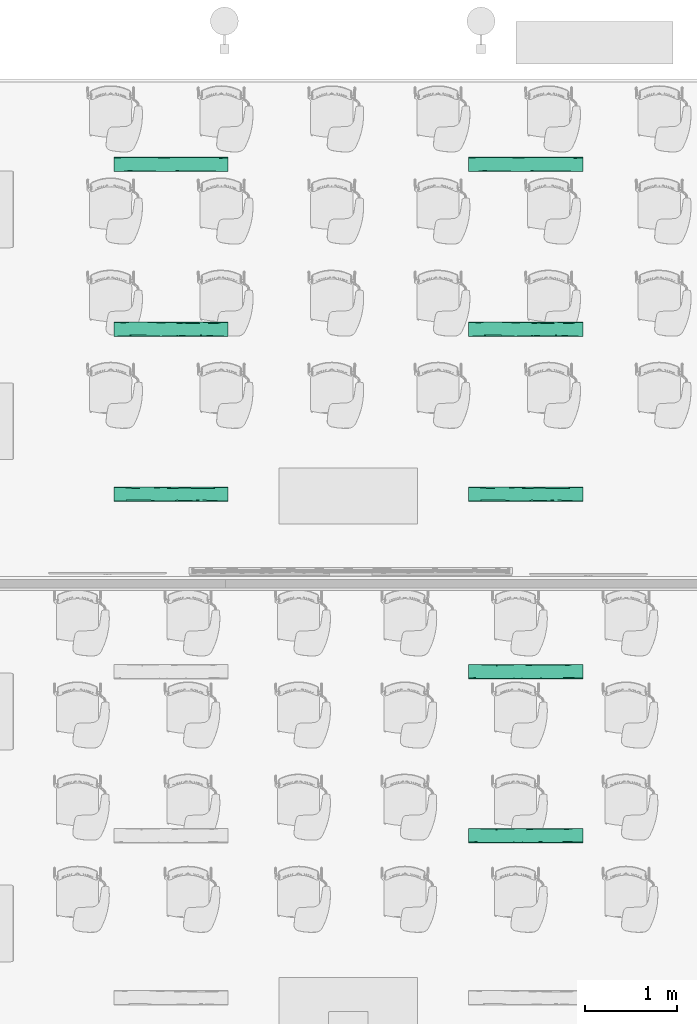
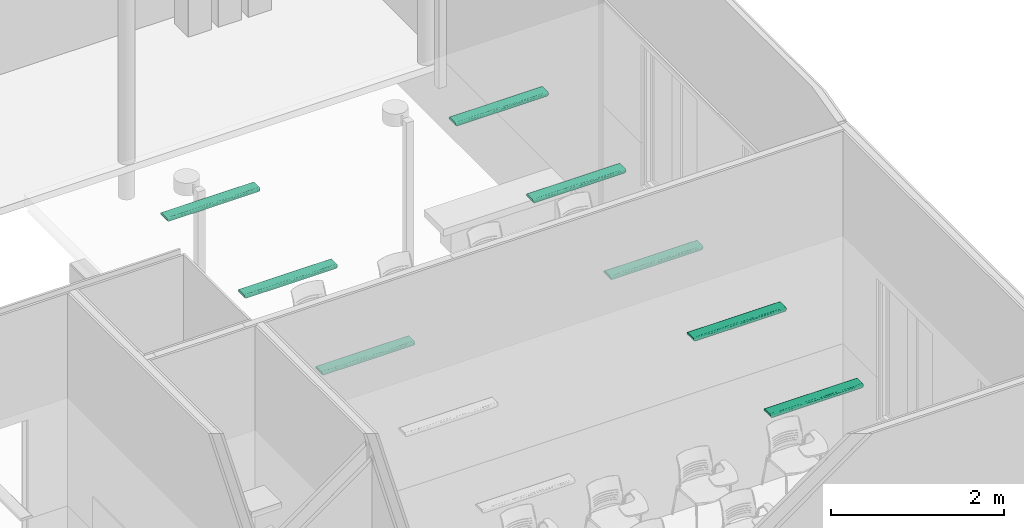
# One storey, part 56 of 155: 8 flow terminals.
"""IFC2X3 building model written with IfcOpenShell, lengths in metres."""

from ifc_helpers import new_model, entity, si_unit, converted_unit, derived_unit, direction, frame, origin, place, context, subcontext, project, spatial, faceted_brep, source, transform, mapped, material, material_list, type_object, type_shapes, element, save


model = new_model("IFC2X3")

# Units and contexts
model_context = context("Model", 3, precision=1e-05, world=origin(), true_north=direction((6.12303176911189e-17, 1.0)))
body_context = subcontext(model_context, "Body", "Model", "MODEL_VIEW")
ifc_project = project(units=[si_unit("LENGTHUNIT", "METRE"), si_unit("AREAUNIT", "SQUARE_METRE"), si_unit("VOLUMEUNIT", "CUBIC_METRE"), converted_unit("PLANEANGLEUNIT", "DEGREE", entity("IfcRatioMeasure", 0.0174532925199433), si_unit("PLANEANGLEUNIT", "RADIAN"), dimensions=[0, 0, 0, 0, 0, 0, 0]), si_unit("MASSUNIT", "GRAM", prefix="KILO"), derived_unit("MASSDENSITYUNIT", [(si_unit("MASSUNIT", "GRAM", prefix="KILO"), 1), (si_unit("LENGTHUNIT", "METRE"), -3)]), si_unit("TIMEUNIT", "SECOND"), si_unit("FREQUENCYUNIT", "HERTZ"), si_unit("THERMODYNAMICTEMPERATUREUNIT", "DEGREE_CELSIUS"), derived_unit("THERMALTRANSMITTANCEUNIT", [(si_unit("MASSUNIT", "GRAM", prefix="KILO"), 1), (si_unit("THERMODYNAMICTEMPERATUREUNIT", "KELVIN"), -1), (si_unit("TIMEUNIT", "SECOND"), -3)]), derived_unit("VOLUMETRICFLOWRATEUNIT", [(si_unit("LENGTHUNIT", "METRE"), 3), (si_unit("TIMEUNIT", "SECOND"), -1)]), si_unit("ELECTRICCURRENTUNIT", "AMPERE"), si_unit("ELECTRICVOLTAGEUNIT", "VOLT"), si_unit("POWERUNIT", "WATT"), si_unit("FORCEUNIT", "NEWTON", prefix="KILO"), si_unit("ILLUMINANCEUNIT", "LUX"), si_unit("LUMINOUSFLUXUNIT", "LUMEN"), si_unit("LUMINOUSINTENSITYUNIT", "CANDELA"), derived_unit("USERDEFINED", [(si_unit("MASSUNIT", "GRAM", prefix="KILO"), -1), (si_unit("LENGTHUNIT", "METRE"), -2), (si_unit("TIMEUNIT", "SECOND"), 3), (si_unit("LUMINOUSFLUXUNIT", "LUMEN"), 1)]), derived_unit("LINEARVELOCITYUNIT", [(si_unit("LENGTHUNIT", "METRE"), 1), (si_unit("TIMEUNIT", "SECOND"), -1)]), si_unit("PRESSUREUNIT", "PASCAL"), derived_unit("USERDEFINED", [(si_unit("LENGTHUNIT", "METRE"), -2), (si_unit("MASSUNIT", "GRAM", prefix="KILO"), 1), (si_unit("TIMEUNIT", "SECOND"), -2)])], contexts=[model_context])

# Site, building, storey, space
site_placement = place(None, frame((26.9889013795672, -17.5624287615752, 0.0)))
site = spatial("IfcSite", under=ifc_project, at=site_placement, Name="Default", CompositionType="ELEMENT")
building_placement = place(site_placement, origin())
building = spatial("IfcBuilding", under=site, at=building_placement, Name="C. C. L. Monsenhor Antônio Sampaio", CompositionType="ELEMENT")
storey_placement = place(building_placement, frame((0.0, 0.0, 1.19999999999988)))
storey = spatial("IfcBuildingStorey", under=building, at=storey_placement, Name="Nível 1.2", CompositionType="ELEMENT", Elevation=1.19999999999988)
space_1_placement = place(storey_placement, origin())
space_1 = spatial("IfcSpace", under=storey, at=space_1_placement, Name="82", CompositionType="ELEMENT", InteriorOrExteriorSpace="INTERNAL")

# Flow terminals
ifc_material_1 = material(Name="glass - blue - t85")
ifc_material_2 = material(Name="metal - aluminium")
ifc_material_list_1 = material_list([ifc_material_1, ifc_material_2])
ifc_material_list_2 = material_list([ifc_material_1, ifc_material_2])
light_fixture_type = type_object("IfcLightFixtureType", Name="BCS460 W16L124 1xLED24/840 MLO-PC", PredefinedType="NOTDEFINED", material=ifc_material_list_2)
shared_shape = source(origin(), body_context, "Body", "Brep", [
    faceted_brep([(0.585000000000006, 0.0435000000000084, -0.0460000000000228), (0.585000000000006, -0.0434999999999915, -0.0460000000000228), (0.585000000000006, -0.0434999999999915, -0.0490000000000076), (0.585000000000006, 0.0435000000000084, -0.0490000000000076), (-0.584999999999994, 0.0435000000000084, -0.0460000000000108), (-0.584999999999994, 0.0435000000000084, -0.0489999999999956), (-0.584999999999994, -0.0434999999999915, -0.0489999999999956), (-0.584999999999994, -0.0434999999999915, -0.0460000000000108)], [[[0, 1, 2, 3]], [[4, 5, 6, 7]], [[3, 5, 4, 0]], [[2, 6, 5, 3]], [[1, 7, 6, 2]], [[0, 4, 7, 1]]]),
    faceted_brep([(-0.584999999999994, -0.0434999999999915, -0.0489999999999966), (0.585000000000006, -0.0434999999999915, -0.0490000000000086), (0.585000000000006, -0.0554999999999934, -0.0490000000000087), (0.417543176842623, -0.0554999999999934, -0.0490000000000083), (0.334912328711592, -0.0554999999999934, -0.0490000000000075), (0.209867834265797, -0.0554999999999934, -0.0490000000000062), (0.0848246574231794, -0.0554999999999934, -0.0490000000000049), (-0.0826321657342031, -0.0554999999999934, -0.0490000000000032), (-0.250087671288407, -0.0554999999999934, -0.0490000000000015), (-0.417543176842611, -0.0554999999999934, -0.0489999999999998), (-0.584999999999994, -0.0554999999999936, -0.0489999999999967), (-0.584999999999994, 0.0435000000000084, -0.0489999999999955), (-0.584999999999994, 0.0555000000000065, -0.0489999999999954), (-0.417543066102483, 0.0555000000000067, -0.0489999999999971), (-0.334913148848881, 0.0555000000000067, -0.048999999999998), (-0.209868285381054, 0.0555000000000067, -0.0489999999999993), (-0.0848248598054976, 0.0555000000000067, -0.0490000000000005), (0.0826306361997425, 0.0555000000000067, -0.0490000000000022), (0.250087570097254, 0.0555000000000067, -0.049000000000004), (0.417544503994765, 0.0555000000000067, -0.0490000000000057), (0.585000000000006, 0.0555000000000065, -0.0490000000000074), (0.585000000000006, 0.0435000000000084, -0.0490000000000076), (0.585000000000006, -0.0434999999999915, -0.0190000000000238), (0.585000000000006, 0.0435000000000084, -0.0190000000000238), (0.585000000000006, 0.0614528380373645, -0.0482162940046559), (0.585000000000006, 0.0670000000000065, -0.0459185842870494), (0.585000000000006, 0.0717634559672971, -0.0422634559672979), (0.585000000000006, 0.0754185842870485, -0.0375000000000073), (0.585000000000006, 0.077716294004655, -0.0319528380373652), (0.585000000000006, 0.0785000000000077, -0.0260000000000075), (0.585000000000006, 0.0785000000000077, 0.0), (0.585000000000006, -0.0784999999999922, 0.0), (0.585000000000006, -0.0784999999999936, -0.02600000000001), (0.585000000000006, -0.0777162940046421, -0.031952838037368), (0.585000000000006, -0.0754185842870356, -0.03750000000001), (0.585000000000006, -0.0717634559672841, -0.0422634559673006), (0.585000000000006, -0.0669999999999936, -0.0459185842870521), (0.585000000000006, -0.0614528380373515, -0.0482162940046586), (-0.584999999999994, 0.0435000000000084, -0.0190000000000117), (-0.584999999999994, -0.0434999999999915, -0.0190000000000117), (-0.584999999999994, -0.0614528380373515, -0.0482162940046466), (-0.584999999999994, -0.0669999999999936, -0.0459185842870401), (-0.584999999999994, -0.0717634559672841, -0.0422634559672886), (-0.584999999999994, -0.0754185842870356, -0.037499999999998), (-0.584999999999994, -0.0777162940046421, -0.031952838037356), (-0.584999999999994, -0.0784999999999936, -0.025999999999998), (-0.584999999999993, -0.0784999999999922, 0.0), (-0.584999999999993, 0.0785000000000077, 0.0), (-0.584999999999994, 0.0785000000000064, -0.0259999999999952), (-0.584999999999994, 0.077716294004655, -0.0319528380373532), (-0.584999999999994, 0.0754185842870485, -0.0374999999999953), (-0.584999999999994, 0.0717634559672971, -0.0422634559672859), (-0.584999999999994, 0.0670000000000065, -0.0459185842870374), (-0.584999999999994, 0.0614528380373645, -0.0482162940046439), (0.417543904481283, 0.0785000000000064, -0.0260000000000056), (0.334912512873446, 0.0785000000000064, -0.0260000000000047), (0.209868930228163, 0.0785000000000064, -0.0260000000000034), (0.0848250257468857, 0.0785000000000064, -0.0260000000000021), (-0.0826310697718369, 0.0785000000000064, -0.0260000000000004), (-0.250087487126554, 0.0785000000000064, -0.0259999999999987), (-0.417543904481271, 0.0785000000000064, -0.025999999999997), (-0.430283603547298, 0.073747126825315, -0.0400015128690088), (-0.39346878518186, 0.069501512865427, -0.0442471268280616), (-0.441987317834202, 0.0643017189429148, -0.0472492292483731), (-0.435801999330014, 0.0759760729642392, -0.0364752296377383), (0.43028360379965, 0.0695015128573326, -0.0442471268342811), (0.393468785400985, 0.0737471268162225, -0.0400015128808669), (-0.166359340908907, 0.0777768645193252, -0.0317220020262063), (-0.333815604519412, 0.078144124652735, -0.0300303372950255), (0.441987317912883, 0.0767492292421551, -0.0348017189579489), (0.376228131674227, 0.0780233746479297, -0.0306580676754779), (-0.0103058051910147, 0.0779837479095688, -0.0308457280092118), (0.147346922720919, 0.0778835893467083, -0.0312891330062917), (0.0846877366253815, 0.0752228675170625, -0.0378325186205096), (0.113930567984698, 0.0669406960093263, -0.0459527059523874), (0.259392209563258, 0.0628104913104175, -0.0478072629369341), (0.138751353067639, 0.0626656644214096, -0.0478552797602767), (-0.327642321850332, 0.0767492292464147, -0.0348017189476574), (-0.44845841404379, 0.0775260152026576, -0.0326222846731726), (0.274715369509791, 0.0767492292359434, -0.0348017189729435), (0.37104983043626, 0.0643017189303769, -0.0472492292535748), (0.333815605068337, 0.0596187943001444, -0.0486282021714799), (0.0893720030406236, 0.0707479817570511, -0.0432191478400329), (-0.0153938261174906, 0.0683034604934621, -0.0451068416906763), (-0.376228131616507, 0.0601580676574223, -0.0485233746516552), (0.0434325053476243, 0.059742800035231, -0.048605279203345), (0.218757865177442, 0.0695015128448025, -0.0442471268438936), (0.464656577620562, 0.0597129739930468, -0.0486108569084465), (0.199843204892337, 0.0732493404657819, -0.0406274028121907), (-0.274715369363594, 0.0643017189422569, -0.0472492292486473), (-0.115235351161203, 0.073747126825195, -0.0400015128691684), (-0.150791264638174, 0.070206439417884, -0.0436839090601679), (-0.272759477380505, 0.0724713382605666, -0.0415233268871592), (-0.00814072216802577, 0.0636892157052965, -0.0474927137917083), (-0.14734692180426, 0.0607891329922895, -0.0483835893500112), (-0.269938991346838, 0.0692956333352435, -0.0444032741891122), (-0.201904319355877, 0.0758204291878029, -0.0367740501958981), (-0.0663340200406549, 0.0763921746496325, -0.0356185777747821), (-0.139314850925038, 0.066006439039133, -0.046460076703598), (-0.430283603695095, -0.0695015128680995, -0.0442471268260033), (-0.393468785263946, -0.073747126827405, -0.0400015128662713), (-0.44198731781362, -0.0767492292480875, -0.0348017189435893), (-0.435801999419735, -0.06597522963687, -0.0464760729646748), (0.430283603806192, -0.0737471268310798, -0.0400015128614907), (0.393468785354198, -0.0695015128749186, -0.0442471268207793), (-0.166359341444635, -0.061222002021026, -0.0482768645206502), (-0.333815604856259, -0.0595303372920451, -0.0486441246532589), (0.441987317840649, -0.0643017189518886, -0.0472492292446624), (0.37622813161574, -0.0601580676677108, -0.0485233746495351), (-0.0103058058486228, -0.0603457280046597, -0.0484837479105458), (0.147346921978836, -0.0607891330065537, -0.0483835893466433), (0.0846877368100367, -0.0673325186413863, -0.0457228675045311), (0.113930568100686, -0.0754527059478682, -0.0374406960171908), (0.259392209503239, -0.0773072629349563, -0.0333104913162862), (0.138751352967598, -0.0773552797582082, -0.0331656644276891), (-0.327642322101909, -0.0643017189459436, -0.047249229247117), (-0.448458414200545, -0.062122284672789, -0.048026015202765), (-0.417543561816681, -0.0784999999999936, -0.0259999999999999), (0.274715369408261, -0.0643017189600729, -0.0472492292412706), (0.371049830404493, -0.0767492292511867, -0.0348017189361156), (0.333815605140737, -0.0781282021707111, -0.0301187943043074), (0.250087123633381, -0.0784999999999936, -0.0260000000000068), (0.0893720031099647, -0.0727191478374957, -0.041247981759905), (-0.0153938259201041, -0.074606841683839, -0.0388034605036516), (-0.376228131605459, -0.0780233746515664, -0.0306580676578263), (0.0826306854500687, -0.0784999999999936, -0.026000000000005), (-0.0848257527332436, -0.0784999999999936, -0.0260000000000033), (0.0434325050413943, -0.0781052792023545, -0.030242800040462), (0.417543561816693, -0.0784999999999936, -0.0260000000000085), (0.21875786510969, -0.0737471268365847, -0.0400015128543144), (0.464656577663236, -0.0781108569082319, -0.0302129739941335), (0.19984320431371, -0.0701274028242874, -0.0437493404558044), (-0.274715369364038, -0.0767492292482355, -0.0348017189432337), (-0.115235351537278, -0.0695015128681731, -0.0442471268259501), (-0.150791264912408, -0.0731839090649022, -0.0407064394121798), (-0.209869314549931, -0.0784999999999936, -0.026000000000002), (-0.334912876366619, -0.0784999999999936, -0.0260000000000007), (-0.272759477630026, -0.071023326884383, -0.0429713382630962), (-0.00814072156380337, -0.0769927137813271, -0.0341892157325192), (-0.147346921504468, -0.0778835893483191, -0.03128913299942), (-0.269938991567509, -0.0739032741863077, -0.0397956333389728), (-0.201904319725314, -0.0662740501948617, -0.0463204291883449), (-0.0663340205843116, -0.0651185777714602, -0.0468921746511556), (-0.139314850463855, -0.0759600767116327, -0.0365064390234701)], [[[0, 1, 2, 3, 4, 5, 6, 7, 8, 9, 10]], [[11, 12, 13, 14, 15, 16, 17, 18, 19, 20, 21]], [[22, 23, 21, 20, 24, 25, 26, 27, 28, 29, 30, 31, 32, 33, 34, 35, 36, 37, 2, 1]], [[12, 11, 38, 39, 0, 10, 40, 41, 42, 43, 44, 45, 46, 47, 48, 49, 50, 51, 52, 53]], [[47, 30, 29, 54, 55, 56, 57, 58, 59, 60, 48]], [[61, 51, 50]], [[62, 51, 61]], [[51, 62, 52]], [[62, 63, 52]], [[63, 53, 52]], [[61, 50, 64]], [[26, 65, 66]], [[26, 25, 65]], [[54, 29, 28]], [[67, 68, 59]], [[69, 70, 28]], [[71, 72, 73]], [[74, 75, 76]], [[26, 66, 27]], [[77, 78, 68]], [[13, 12, 53]], [[69, 27, 66]], [[79, 73, 72]], [[24, 80, 25]], [[70, 79, 72]], [[69, 28, 27]], [[75, 81, 18]], [[82, 74, 83]], [[63, 84, 53]], [[17, 16, 85]], [[19, 18, 81]], [[75, 74, 86]], [[87, 81, 80]], [[73, 79, 88]], [[70, 56, 55, 54]], [[80, 86, 65]], [[89, 63, 62]], [[90, 83, 91]], [[84, 15, 14, 13]], [[61, 77, 92]], [[59, 68, 60]], [[78, 49, 48]], [[20, 87, 24]], [[93, 76, 85]], [[66, 65, 86]], [[65, 25, 80]], [[62, 61, 92]], [[77, 64, 78]], [[92, 90, 91]], [[89, 94, 84]], [[28, 70, 54]], [[79, 69, 66]], [[53, 84, 13]], [[91, 95, 92]], [[96, 90, 92]], [[56, 72, 57]], [[70, 69, 79]], [[70, 72, 56]], [[67, 59, 58]], [[71, 67, 58]], [[71, 58, 57]], [[83, 90, 82]], [[88, 82, 73]], [[96, 97, 90]], [[71, 73, 97]], [[15, 94, 16]], [[84, 63, 89]], [[84, 94, 15]], [[98, 83, 93]], [[83, 98, 91]], [[18, 17, 76]], [[62, 92, 95]], [[98, 95, 91]], [[98, 94, 89]], [[74, 76, 93]], [[93, 94, 98]], [[85, 16, 94]], [[19, 81, 87]], [[80, 81, 75]], [[19, 87, 20]], [[24, 87, 80]], [[78, 48, 60]], [[77, 68, 67]], [[68, 78, 60]], [[49, 78, 50]], [[78, 64, 50]], [[64, 77, 61]], [[94, 93, 85]], [[85, 76, 17]], [[97, 67, 71]], [[72, 71, 57]], [[77, 67, 96]], [[90, 97, 73]], [[97, 96, 67]], [[77, 96, 92]], [[80, 75, 86]], [[76, 75, 18]], [[95, 89, 62]], [[89, 95, 98]], [[86, 74, 82]], [[83, 74, 93]], [[86, 82, 88]], [[73, 82, 90]], [[88, 66, 86]], [[66, 88, 79]], [[99, 42, 41]], [[100, 42, 99]], [[42, 100, 43]], [[100, 101, 43]], [[101, 44, 43]], [[99, 41, 102]], [[35, 103, 104]], [[35, 34, 103]], [[3, 2, 37]], [[105, 106, 8]], [[107, 108, 37]], [[109, 110, 111]], [[112, 113, 114]], [[35, 104, 36]], [[115, 116, 106]], [[117, 45, 44]], [[107, 36, 104]], [[118, 111, 110]], [[33, 119, 34]], [[108, 118, 110]], [[107, 37, 36]], [[113, 120, 121]], [[122, 112, 123]], [[101, 124, 44]], [[125, 126, 127]], [[128, 121, 120]], [[113, 112, 129]], [[130, 120, 119]], [[111, 118, 131]], [[108, 5, 4, 3]], [[119, 129, 103]], [[132, 101, 100]], [[133, 123, 134]], [[124, 135, 136, 117]], [[99, 115, 137]], [[8, 106, 9]], [[116, 40, 10]], [[32, 130, 33]], [[138, 114, 127]], [[104, 103, 129]], [[103, 34, 119]], [[100, 99, 137]], [[115, 102, 116]], [[137, 133, 134]], [[132, 139, 124]], [[37, 108, 3]], [[118, 107, 104]], [[44, 124, 117]], [[134, 140, 137]], [[141, 133, 137]], [[5, 110, 6]], [[108, 107, 118]], [[108, 110, 5]], [[105, 8, 7]], [[109, 105, 7]], [[109, 7, 6]], [[123, 133, 122]], [[131, 122, 111]], [[141, 142, 133]], [[109, 111, 142]], [[135, 139, 126]], [[124, 101, 132]], [[124, 139, 135]], [[143, 123, 138]], [[123, 143, 134]], [[121, 125, 114]], [[100, 137, 140]], [[143, 140, 134]], [[143, 139, 132]], [[112, 114, 138]], [[138, 139, 143]], [[127, 126, 139]], [[128, 120, 130]], [[119, 120, 113]], [[128, 130, 32]], [[33, 130, 119]], [[116, 10, 9]], [[115, 106, 105]], [[106, 116, 9]], [[40, 116, 41]], [[116, 102, 41]], [[102, 115, 99]], [[139, 138, 127]], [[127, 114, 125]], [[142, 105, 109]], [[110, 109, 6]], [[115, 105, 141]], [[133, 142, 111]], [[142, 141, 105]], [[115, 141, 137]], [[119, 113, 129]], [[114, 113, 121]], [[140, 132, 100]], [[132, 140, 143]], [[129, 112, 122]], [[123, 112, 138]], [[129, 122, 131]], [[111, 122, 133]], [[131, 104, 129]], [[104, 131, 118]], [[31, 46, 45, 117, 136, 135, 126, 125, 121, 128, 32]], [[46, 31, 30, 47]], [[21, 23, 38, 11]], [[22, 1, 0, 39]], [[23, 22, 39, 38]]]),
    faceted_brep([(0.597000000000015, 0.0785000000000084, 0.0), (0.602952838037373, 0.0785000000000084, -0.000783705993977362), (0.608500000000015, 0.0785000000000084, -0.00308141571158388), (0.613263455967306, 0.0785000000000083, -0.00673654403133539), (0.616918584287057, 0.0785000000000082, -0.011499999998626), (0.619216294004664, 0.0785000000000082, -0.017047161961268), (0.620000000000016, 0.0785000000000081, -0.0229999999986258), (0.620000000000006, 0.0785000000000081, -0.0259999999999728), (0.585000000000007, 0.0785000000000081, -0.0259999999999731), (0.585000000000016, 0.0785000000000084, 0.0), (0.619216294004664, -0.0784999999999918, -0.0170471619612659), (0.616918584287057, -0.0784999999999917, -0.0114999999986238), (0.613263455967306, -0.0784999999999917, -0.00673654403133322), (0.608500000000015, -0.0784999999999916, -0.00308141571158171), (0.602952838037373, -0.0784999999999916, -0.000783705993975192), (0.597000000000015, -0.0784999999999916, 0.0), (0.585000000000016, -0.0784999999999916, 0.0), (0.585000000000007, -0.0784999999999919, -0.0260000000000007), (0.620000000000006, -0.0784999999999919, -0.0260000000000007), (0.620000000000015, -0.0784999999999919, -0.0229999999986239), (0.620000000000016, 0.0669999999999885, -0.0459185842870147), (0.620000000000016, 0.0717634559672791, -0.0422634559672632), (0.620000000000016, 0.0754185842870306, -0.0374999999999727), (0.620000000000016, 0.0777162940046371, -0.0319528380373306), (0.620000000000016, -0.0777162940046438, -0.0319528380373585), (0.620000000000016, -0.0754185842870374, -0.0375000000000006), (0.620000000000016, -0.071763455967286, -0.0422634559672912), (0.620000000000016, -0.0669999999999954, -0.0459185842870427), (0.620000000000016, -0.0614528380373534, -0.0482162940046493), (0.620000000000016, -0.0554999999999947, -0.0489999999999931), (0.620000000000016, 0.0554999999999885, -0.0489999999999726), (0.620000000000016, 0.0614528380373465, -0.0482162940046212), (0.585000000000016, 0.0554999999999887, -0.048999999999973), (0.585000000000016, -0.0554999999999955, -0.0490000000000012), (0.585000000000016, -0.0614528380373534, -0.0482162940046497), (0.585000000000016, -0.0669999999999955, -0.0459185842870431), (0.585000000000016, -0.071763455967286, -0.0422634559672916), (0.585000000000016, -0.0754185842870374, -0.0375000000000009), (0.585000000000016, -0.0777162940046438, -0.0319528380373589), (0.585000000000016, 0.0777162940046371, -0.031952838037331), (0.585000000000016, 0.0754185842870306, -0.037499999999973), (0.585000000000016, 0.0717634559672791, -0.0422634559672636), (0.585000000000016, 0.0669999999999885, -0.0459185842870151), (0.585000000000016, 0.0614528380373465, -0.0482162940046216)], [[[0, 1, 2, 3, 4, 5, 6, 7, 8, 9]], [[10, 11, 12, 13, 14, 15, 16, 17, 18, 19]], [[20, 21, 22, 23, 7, 6, 19, 18, 24, 25, 26, 27, 28, 29, 30, 31]], [[32, 33, 34, 35, 36, 37, 38, 17, 16, 9, 8, 39, 40, 41, 42, 43]], [[16, 15, 0, 9]], [[11, 10, 5, 4]], [[12, 11, 4, 3]], [[6, 5, 10, 19]], [[14, 13, 2, 1]], [[15, 14, 1, 0]], [[2, 13, 12, 3]], [[43, 31, 30, 32]], [[43, 42, 20, 31]], [[21, 20, 42, 41]], [[23, 22, 40, 39]], [[7, 23, 39, 8]], [[40, 22, 21, 41]], [[29, 33, 32, 30]], [[25, 24, 38, 37]], [[26, 25, 37, 36]], [[17, 38, 24, 18]], [[28, 27, 35, 34]], [[29, 28, 34, 33]], [[35, 27, 26, 36]]]),
    faceted_brep([(-0.608499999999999, 0.0785000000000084, -0.00308141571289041), (-0.602952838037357, 0.0785000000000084, -0.000783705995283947), (-0.597, 0.0785000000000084, 0.0), (-0.584999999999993, 0.0785000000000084, 0.0), (-0.584999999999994, 0.0785000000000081, -0.0260000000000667), (-0.619999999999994, 0.0785000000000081, -0.0260000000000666), (-0.619999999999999, 0.0785000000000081, -0.0229999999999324), (-0.619216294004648, 0.0785000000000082, -0.0170471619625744), (-0.616918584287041, 0.0785000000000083, -0.0114999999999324), (-0.61326345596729, 0.0785000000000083, -0.00673654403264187), (-0.584999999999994, -0.0784999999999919, -0.0260000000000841), (-0.584999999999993, -0.0784999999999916, 0.0), (-0.596999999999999, -0.0784999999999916, 0.0), (-0.602952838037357, -0.0784999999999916, -0.000783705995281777), (-0.608499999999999, -0.0784999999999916, -0.00308141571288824), (-0.61326345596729, -0.0784999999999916, -0.0067365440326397), (-0.616918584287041, -0.0784999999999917, -0.0114999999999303), (-0.619216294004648, -0.0784999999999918, -0.0170471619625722), (-0.619999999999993, -0.0784999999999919, -0.0229999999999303), (-0.619999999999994, -0.0784999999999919, -0.0260000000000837), (-0.619999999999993, 0.0777162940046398, -0.0319528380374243), (-0.619999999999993, 0.0754185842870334, -0.0375000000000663), (-0.619999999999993, 0.071763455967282, -0.042263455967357), (-0.619999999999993, 0.0669999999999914, -0.0459185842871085), (-0.619999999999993, 0.0614528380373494, -0.048216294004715), (-0.619999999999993, 0.0554999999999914, -0.0490000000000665), (-0.619999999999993, -0.0554999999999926, -0.0490000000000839), (-0.619999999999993, -0.0614528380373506, -0.0482162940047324), (-0.619999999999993, -0.0669999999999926, -0.0459185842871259), (-0.619999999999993, -0.0717634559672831, -0.0422634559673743), (-0.619999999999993, -0.0754185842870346, -0.0375000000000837), (-0.619999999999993, -0.0777162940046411, -0.0319528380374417), (-0.584999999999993, 0.0614528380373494, -0.0482162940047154), (-0.584999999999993, 0.0669999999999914, -0.0459185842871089), (-0.584999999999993, 0.071763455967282, -0.0422634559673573), (-0.584999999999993, 0.0754185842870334, -0.0375000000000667), (-0.584999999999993, 0.0777162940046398, -0.0319528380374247), (-0.584999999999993, -0.0777162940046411, -0.0319528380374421), (-0.584999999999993, -0.0754185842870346, -0.0375000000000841), (-0.584999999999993, -0.0717634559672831, -0.0422634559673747), (-0.584999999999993, -0.0669999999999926, -0.0459185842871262), (-0.584999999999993, -0.0614528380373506, -0.0482162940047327), (-0.584999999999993, -0.0554999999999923, -0.0490000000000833), (-0.584999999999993, 0.0554999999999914, -0.0490000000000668)], [[[0, 1, 2, 3, 4, 5, 6, 7, 8, 9]], [[10, 11, 12, 13, 14, 15, 16, 17, 18, 19]], [[5, 20, 21, 22, 23, 24, 25, 26, 27, 28, 29, 30, 31, 19, 18, 6]], [[32, 33, 34, 35, 36, 4, 3, 11, 10, 37, 38, 39, 40, 41, 42, 43]], [[12, 11, 3, 2]], [[14, 13, 1, 0]], [[15, 14, 0, 9]], [[2, 1, 13, 12]], [[17, 16, 8, 7]], [[18, 17, 7, 6]], [[8, 16, 15, 9]], [[22, 21, 35, 34]], [[36, 20, 5, 4]], [[21, 20, 36, 35]], [[24, 23, 33, 32]], [[25, 24, 32, 43]], [[33, 23, 22, 34]], [[26, 25, 43, 42]], [[28, 27, 41, 40]], [[29, 28, 40, 39]], [[42, 41, 27, 26]], [[31, 30, 38, 37]], [[19, 31, 37, 10]], [[38, 30, 29, 39]]]),
])
type_shapes(light_fixture_type, [shared_shape])
flow_terminal_1_placement = place(space_1_placement, frame((9.65444770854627, -31.1130663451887, 3.1), z_axis=(0.0, 0.0, -1.0), x_axis=(-1.0, 0.0, 0.0)))
element("IfcFlowTerminal", 1, at=flow_terminal_1_placement, inside=space_1, type_object=light_fixture_type, material=ifc_material_list_1, Name="63_PHILIPS_smartform-LED-surface_f:BCS460 W16L124 1xLED24/840 MLO-PC", ObjectType="BCS460 W16L124 1xLED24/840 MLO-PC", context=body_context, shape_type="MappedRepresentation", body=[
    mapped(shared_shape, transform((0.0, 0.0, 0.0), scale=1.0)),
])
ifc_material_list_3 = material_list([ifc_material_1, ifc_material_2])
flow_terminal_2_placement = place(space_1_placement, frame((9.65444770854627, -29.3330663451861, 3.1), z_axis=(0.0, 0.0, -1.0), x_axis=(-1.0, 0.0, 0.0)))
element("IfcFlowTerminal", 2, at=flow_terminal_2_placement, inside=space_1, type_object=light_fixture_type, material=ifc_material_list_3, Name="63_PHILIPS_smartform-LED-surface_f:BCS460 W16L124 1xLED24/840 MLO-PC", ObjectType="BCS460 W16L124 1xLED24/840 MLO-PC", context=body_context, shape_type="MappedRepresentation", body=[
    mapped(shared_shape, transform((0.0, 0.0, 0.0), scale=1.0)),
])

# Space
space_2_placement = place(storey_placement, origin())
space_2 = spatial("IfcSpace", under=storey, at=space_2_placement, Name="83", CompositionType="ELEMENT", InteriorOrExteriorSpace="INTERNAL")

# Flow terminals
ifc_material_list_4 = material_list([ifc_material_1, ifc_material_2])
flow_terminal_3_placement = place(space_2_placement, frame((9.65444770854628, -25.6180663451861, 2.8), z_axis=(0.0, 0.0, -1.0), x_axis=(-1.0, 0.0, 0.0)))
element("IfcFlowTerminal", 3, at=flow_terminal_3_placement, inside=space_2, type_object=light_fixture_type, material=ifc_material_list_4, Name="63_PHILIPS_smartform-LED-surface_f:BCS460 W16L124 1xLED24/840 MLO-PC", ObjectType="BCS460 W16L124 1xLED24/840 MLO-PC", context=body_context, shape_type="MappedRepresentation", body=[
    mapped(shared_shape, transform((0.0, 0.0, 0.0), scale=1.0)),
])
ifc_material_list_5 = material_list([ifc_material_1, ifc_material_2])
flow_terminal_4_placement = place(space_2_placement, frame((9.65444770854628, -27.408066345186, 2.8), z_axis=(0.0, 0.0, -1.0), x_axis=(-1.0, 0.0, 0.0)))
element("IfcFlowTerminal", 4, at=flow_terminal_4_placement, inside=space_2, type_object=light_fixture_type, material=ifc_material_list_5, Name="63_PHILIPS_smartform-LED-surface_f:BCS460 W16L124 1xLED24/840 MLO-PC", ObjectType="BCS460 W16L124 1xLED24/840 MLO-PC", context=body_context, shape_type="MappedRepresentation", body=[
    mapped(shared_shape, transform((0.0, 0.0, 0.0), scale=1.0)),
])
ifc_material_list_6 = material_list([ifc_material_1, ifc_material_2])
flow_terminal_5_placement = place(space_2_placement, frame((5.80444770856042, -27.408066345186, 2.8), z_axis=(0.0, 0.0, -1.0), x_axis=(-1.0, 0.0, 0.0)))
element("IfcFlowTerminal", 5, at=flow_terminal_5_placement, inside=space_2, type_object=light_fixture_type, material=ifc_material_list_6, Name="63_PHILIPS_smartform-LED-surface_f:BCS460 W16L124 1xLED24/840 MLO-PC", ObjectType="BCS460 W16L124 1xLED24/840 MLO-PC", context=body_context, shape_type="MappedRepresentation", body=[
    mapped(shared_shape, transform((0.0, 0.0, 0.0), scale=1.0)),
])
ifc_material_list_7 = material_list([ifc_material_1, ifc_material_2])
flow_terminal_6_placement = place(space_2_placement, frame((5.80444770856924, -25.618066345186, 2.8), z_axis=(0.0, 0.0, -1.0), x_axis=(-1.0, 0.0, 0.0)))
element("IfcFlowTerminal", 6, at=flow_terminal_6_placement, inside=space_2, type_object=light_fixture_type, material=ifc_material_list_7, Name="63_PHILIPS_smartform-LED-surface_f:BCS460 W16L124 1xLED24/840 MLO-PC", ObjectType="BCS460 W16L124 1xLED24/840 MLO-PC", context=body_context, shape_type="MappedRepresentation", body=[
    mapped(shared_shape, transform((0.0, 0.0, 0.0), scale=1.0)),
])
ifc_material_list_8 = material_list([ifc_material_1, ifc_material_2])
flow_terminal_7_placement = place(space_2_placement, frame((9.65444770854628, -23.828066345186, 2.8), z_axis=(0.0, 0.0, -1.0), x_axis=(-1.0, 0.0, 0.0)))
element("IfcFlowTerminal", 7, at=flow_terminal_7_placement, inside=space_2, type_object=light_fixture_type, material=ifc_material_list_8, Name="63_PHILIPS_smartform-LED-surface_f:BCS460 W16L124 1xLED24/840 MLO-PC", ObjectType="BCS460 W16L124 1xLED24/840 MLO-PC", context=body_context, shape_type="MappedRepresentation", body=[
    mapped(shared_shape, transform((0.0, 0.0, 0.0), scale=1.0)),
])
ifc_material_list_9 = material_list([ifc_material_1, ifc_material_2])
flow_terminal_8_placement = place(space_2_placement, frame((5.80444770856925, -23.828066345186, 2.8), z_axis=(0.0, 0.0, -1.0), x_axis=(-1.0, 0.0, 0.0)))
element("IfcFlowTerminal", 8, at=flow_terminal_8_placement, inside=space_2, type_object=light_fixture_type, material=ifc_material_list_9, Name="63_PHILIPS_smartform-LED-surface_f:BCS460 W16L124 1xLED24/840 MLO-PC", ObjectType="BCS460 W16L124 1xLED24/840 MLO-PC", context=body_context, shape_type="MappedRepresentation", body=[
    mapped(shared_shape, transform((0.0, 0.0, 0.0), scale=1.0)),
])

save(model, "model.ifc")
